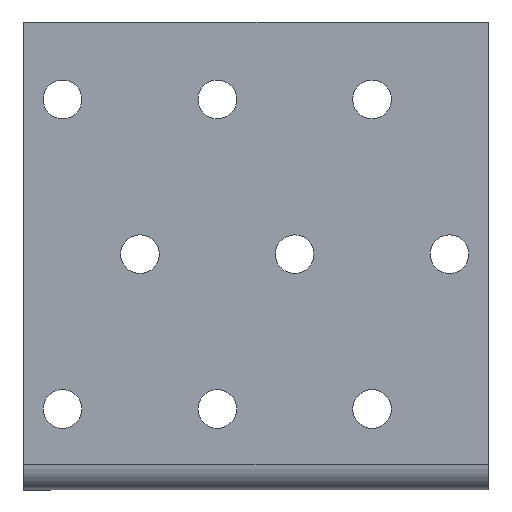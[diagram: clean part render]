
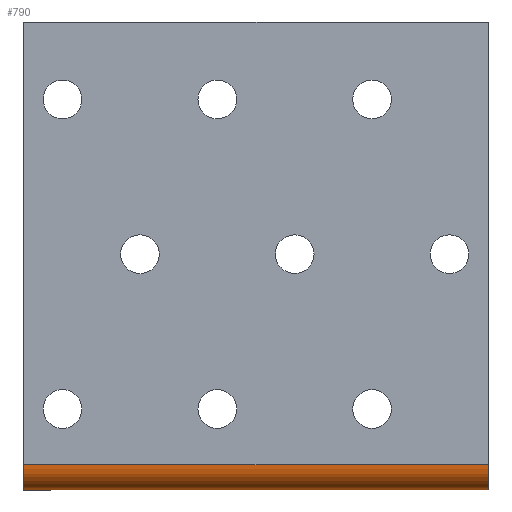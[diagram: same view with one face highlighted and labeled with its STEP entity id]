
A CAD part, front view. The second image highlights one B-rep face of the part: STEP entity #790.
In plain terms, the highlighted cylindrical face has radius 3.237 mm (diameter 6.473 mm), a partial arc.
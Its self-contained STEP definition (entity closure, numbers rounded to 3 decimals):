
#201 = EDGE_CURVE ( 'NONE', #1093, #1266, #457, .T. ) ;
#213 = LINE ( 'NONE', #234, #1256 ) ;
#233 = DIRECTION ( 'NONE',  ( 1., 0., 0. ) ) ;
#234 = CARTESIAN_POINT ( 'NONE',  ( 0., -2.5, -57.225 ) ) ;
#252 = VECTOR ( 'NONE', #261, 1000. ) ;
#261 = DIRECTION ( 'NONE',  ( 1., 0., 0. ) ) ;
#316 = LINE ( 'NONE', #1722, #252 ) ;
#325 = CIRCLE ( 'NONE', #925, 3.237 ) ;
#352 = DIRECTION ( 'NONE',  ( 1., 0., 0. ) ) ;
#362 = DIRECTION ( 'NONE',  ( 0., 0., -1. ) ) ;
#457 = CIRCLE ( 'NONE', #1437, 3.237 ) ;
#473 = CARTESIAN_POINT ( 'NONE',  ( 0., 0.737, -57.225 ) ) ;
#505 = CARTESIAN_POINT ( 'NONE',  ( -50.043, 0.737, -57.225 ) ) ;
#520 = CARTESIAN_POINT ( 'NONE',  ( 0., -2.5, -57.225 ) ) ;
#571 = EDGE_LOOP ( 'NONE', ( #1692, #1066, #1139, #1340 ) ) ;
#773 = AXIS2_PLACEMENT_3D ( 'NONE', #505, #233, #362 ) ;
#790 = ADVANCED_FACE ( 'NONE', ( #1162 ), #901, .T. ) ;
#805 = DIRECTION ( 'NONE',  ( 0., 0., 1. ) ) ;
#889 = DIRECTION ( 'NONE',  ( 1., 0., 0. ) ) ;
#901 = CYLINDRICAL_SURFACE ( 'NONE', #773, 3.237 ) ;
#924 = VERTEX_POINT ( 'NONE', #520 ) ;
#925 = AXIS2_PLACEMENT_3D ( 'NONE', #473, #889, #1317 ) ;
#1009 = VERTEX_POINT ( 'NONE', #1609 ) ;
#1037 = EDGE_CURVE ( 'NONE', #1009, #1266, #316, .T. ) ;
#1066 = ORIENTED_EDGE ( 'NONE', *, *, #1566, .F. ) ;
#1086 = CARTESIAN_POINT ( 'NONE',  ( 60., -2.5, -57.225 ) ) ;
#1093 = VERTEX_POINT ( 'NONE', #1086 ) ;
#1139 = ORIENTED_EDGE ( 'NONE', *, *, #1456, .T. ) ;
#1162 = FACE_OUTER_BOUND ( 'NONE', #571, .T. ) ;
#1256 = VECTOR ( 'NONE', #352, 1000. ) ;
#1266 = VERTEX_POINT ( 'NONE', #1626 ) ;
#1317 = DIRECTION ( 'NONE',  ( 0., 0., 1. ) ) ;
#1340 = ORIENTED_EDGE ( 'NONE', *, *, #1037, .T. ) ;
#1437 = AXIS2_PLACEMENT_3D ( 'NONE', #1489, #1483, #805 ) ;
#1456 = EDGE_CURVE ( 'NONE', #924, #1009, #325, .T. ) ;
#1483 = DIRECTION ( 'NONE',  ( 1., 0., 0. ) ) ;
#1489 = CARTESIAN_POINT ( 'NONE',  ( 60., 0.737, -57.225 ) ) ;
#1566 = EDGE_CURVE ( 'NONE', #924, #1093, #213, .T. ) ;
#1609 = CARTESIAN_POINT ( 'NONE',  ( 0., 0.737, -60.462 ) ) ;
#1626 = CARTESIAN_POINT ( 'NONE',  ( 60., 0.737, -60.462 ) ) ;
#1692 = ORIENTED_EDGE ( 'NONE', *, *, #201, .F. ) ;
#1722 = CARTESIAN_POINT ( 'NONE',  ( 0., 0.737, -60.462 ) ) ;
